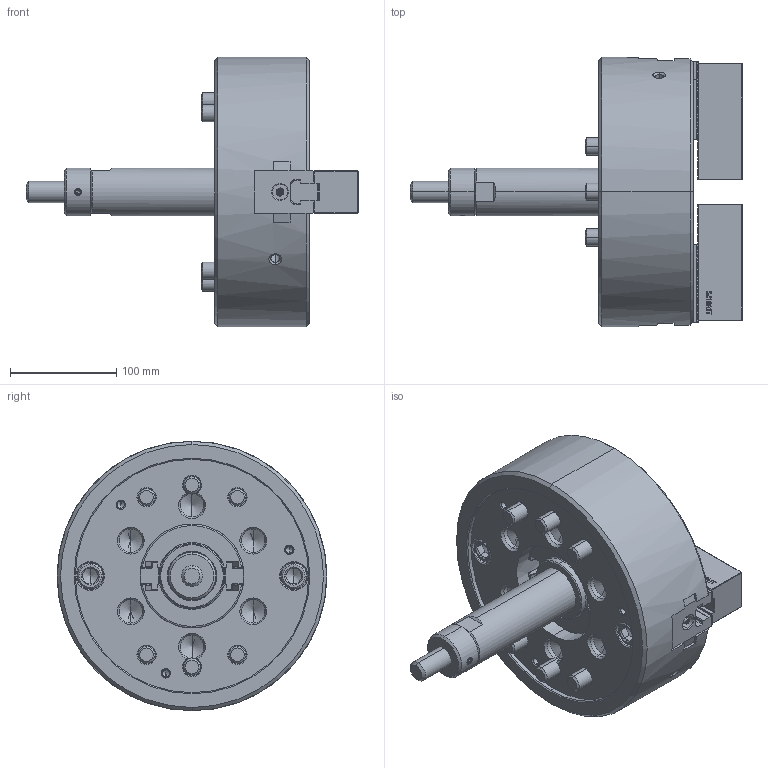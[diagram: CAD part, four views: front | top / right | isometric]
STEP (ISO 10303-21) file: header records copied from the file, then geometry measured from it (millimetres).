
FILE_DESCRIPTION (( 'STEP AP214' ), '1' );
FILE_NAME ('DT1_NLT10_OUTSIDE_VIEW_HCL.STEP', '2026-03-23T07:08:10', ( '' ), ( '' ), 'SwSTEP 2.0', 'SolidWorks 2022', '' );
FILE_SCHEMA (( 'AUTOMOTIVE_DESIGN' ));
Length unit declared in the file: millimetre
Products named in the file (11): DT1_NLT10_BASE^DT1_NLT10; DT1_NLT10_COVER^DT1_NLT10; DT1_NLT10_M16x85^DT1_NLT10; DT1_NLT10_SOFTJAW^DT1_NLT10; DT1_NLT10_M12x35^DT1_NLT10; DT1_NLT10_TNUT^DT1_NLT10; DT1_NLT10_M5x12^DT1_NLT10; DT1_NLT10_OUTSIDE_VIEW_HCL; DT1_NLT10_DN^DT1_NLT10; DT1_NLT10_DRAWSCREW^DT1_NLT10; Copy of 61P335751^DT1_NLT10
Assembly tree (23 placements, depth 2):
  DT1_NLT10_OUTSIDE_VIEW_HCL
    DT1_NLT10_SOFTJAW^DT1_NLT10  x2
    DT1_NLT10_TNUT^DT1_NLT10  x2
    DT1_NLT10_COVER^DT1_NLT10
    DT1_NLT10_DRAWSCREW^DT1_NLT10
    Copy of 61P335751^DT1_NLT10
    DT1_NLT10_DN^DT1_NLT10
    DT1_NLT10_BASE^DT1_NLT10
    DT1_NLT10_M16x85^DT1_NLT10  x6
    DT1_NLT10_M12x35^DT1_NLT10  x4
    DT1_NLT10_M5x12^DT1_NLT10  x4
Bounding box: 313 x 254 x 254 mm (x, y, z)
Volume: 4624367.2 mm3; surface area: 460911.3 mm2
Topology: 23 solids, 27 shells, 4031 faces, 11365 edges, 7421 vertices
Faces by surface type: plane 2371, cylinder 1063, cone 375, bspline 174, torus 44, sphere 4
Entity records: 99674 total; most frequent: CARTESIAN_POINT 28378, ORIENTED_EDGE 16204, DIRECTION 12715, EDGE_CURVE 8102, VECTOR 5677, LINE 5677, VERTEX_POINT 5312, AXIS2_PLACEMENT_3D 3519
